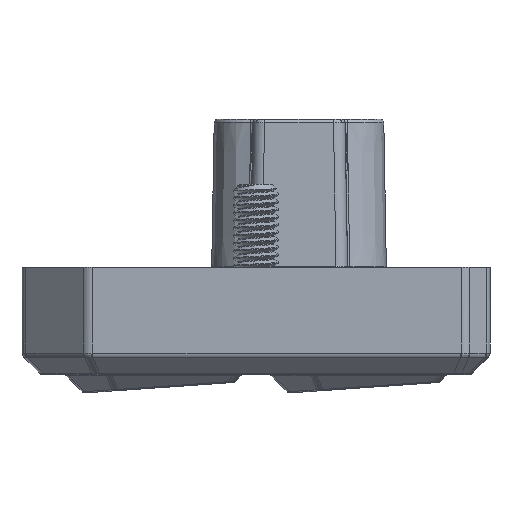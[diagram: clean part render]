
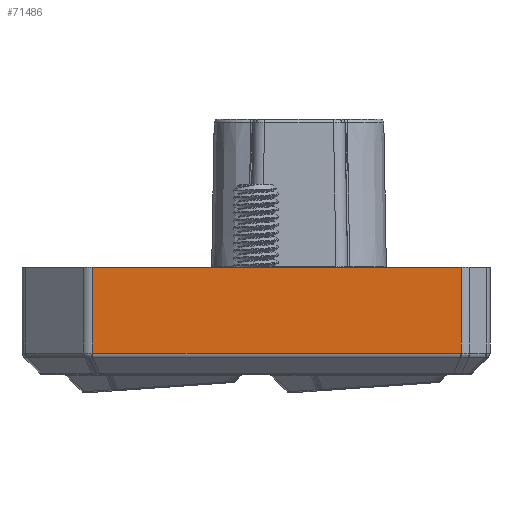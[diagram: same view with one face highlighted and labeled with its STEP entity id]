
A CAD part, front view. The second image highlights one B-rep face of the part: STEP entity #71486.
In plain terms, the highlighted planar face has unit normal (0, -1, 0).
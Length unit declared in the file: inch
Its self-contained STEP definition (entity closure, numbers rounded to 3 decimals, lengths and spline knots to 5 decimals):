
#2680 = CARTESIAN_POINT ( 'NONE',  ( 1.06765, -2.035, 0.11258 ) ) ;
#3497 = CARTESIAN_POINT ( 'NONE',  ( -0.85265, -2.035, 0.11258 ) ) ;
#3854 = DIRECTION ( 'NONE',  ( -1., 0., 0. ) ) ;
#5195 = VERTEX_POINT ( 'NONE', #9202 ) ;
#5884 = CARTESIAN_POINT ( 'NONE',  ( 1.0676, -2.035, 0.11243 ) ) ;
#7273 = CARTESIAN_POINT ( 'NONE',  ( 1.06765, -2.035, 0.11258 ) ) ;
#9202 = CARTESIAN_POINT ( 'NONE',  ( 1.06396, -2.035, 0.11243 ) ) ;
#11537 = CARTESIAN_POINT ( 'NONE',  ( -0.85018, -2.035, 0.11243 ) ) ;
#12910 = EDGE_CURVE ( 'NONE', #82514, #63931, #21594, .T. ) ;
#16807 = EDGE_CURVE ( 'NONE', #76202, #53234, #59922, .T. ) ;
#18302 = AXIS2_PLACEMENT_3D ( 'NONE', #78240, #21017, #3854 ) ;
#19796 = CARTESIAN_POINT ( 'NONE',  ( 1.06641, -2.035, 0.11248 ) ) ;
#21017 = DIRECTION ( 'NONE',  ( 0., 1., 0. ) ) ;
#21594 =( BOUNDED_CURVE ( )  B_SPLINE_CURVE ( 3, ( #24486, #69195, #11537, #58230 ),
 .UNSPECIFIED., .F., .F. ) 
 B_SPLINE_CURVE_WITH_KNOTS ( ( 4, 4 ),
 ( 5.94544, 6.00917 ),
 .UNSPECIFIED. ) 
 CURVE ( )  GEOMETRIC_REPRESENTATION_ITEM ( )  RATIONAL_B_SPLINE_CURVE ( ( 1., 1., 1., 1. ) ) 
 REPRESENTATION_ITEM ( '' )  );
#22702 = EDGE_CURVE ( 'NONE', #63816, #53234, #23260, .T. ) ;
#23260 = LINE ( 'NONE', #42052, #82574 ) ;
#24486 = CARTESIAN_POINT ( 'NONE',  ( -0.85265, -2.035, 0.11258 ) ) ;
#24638 = VECTOR ( 'NONE', #63199, 39.37008 ) ;
#26066 = CARTESIAN_POINT ( 'NONE',  ( 1.06518, -2.035, 0.11243 ) ) ;
#28120 = DIRECTION ( 'NONE',  ( 1., 0., 0. ) ) ;
#28244 = ORIENTED_EDGE ( 'NONE', *, *, #81262, .T. ) ;
#29830 = EDGE_CURVE ( 'NONE', #5195, #63816, #44769, .T. ) ;
#30980 = LINE ( 'NONE', #81999, #24638 ) ;
#32786 = ORIENTED_EDGE ( 'NONE', *, *, #12910, .T. ) ;
#38849 = DIRECTION ( 'NONE',  ( 1., 0., 0. ) ) ;
#39227 = VECTOR ( 'NONE', #28120, 39.37008 ) ;
#39355 = ORIENTED_EDGE ( 'NONE', *, *, #50807, .T. ) ;
#39375 = ORIENTED_EDGE ( 'NONE', *, *, #22702, .T. ) ;
#39400 = FACE_OUTER_BOUND ( 'NONE', #57907, .T. ) ;
#42052 = CARTESIAN_POINT ( 'NONE',  ( 1.06765, -2.035, 0.56 ) ) ;
#44769 =( BOUNDED_CURVE ( )  B_SPLINE_CURVE ( 3, ( #58678, #26066, #19796, #7273 ),
 .UNSPECIFIED., .F., .F. ) 
 B_SPLINE_CURVE_WITH_KNOTS ( ( 4, 4 ),
 ( 3.41561, 3.47934 ),
 .UNSPECIFIED. ) 
 CURVE ( )  GEOMETRIC_REPRESENTATION_ITEM ( )  RATIONAL_B_SPLINE_CURVE ( ( 1., 1., 1., 1. ) ) 
 REPRESENTATION_ITEM ( '' )  );
#50807 = EDGE_CURVE ( 'NONE', #63931, #5195, #80346, .T. ) ;
#53234 = VERTEX_POINT ( 'NONE', #61399 ) ;
#54478 = CARTESIAN_POINT ( 'NONE',  ( 1.2175, -2.035, 0.56 ) ) ;
#54676 = VECTOR ( 'NONE', #38849, 39.37008 ) ;
#55432 = DIRECTION ( 'NONE',  ( 0., 0., 1. ) ) ;
#57907 = EDGE_LOOP ( 'NONE', ( #39355, #63499, #39375, #66210, #28244, #32786 ) ) ;
#58230 = CARTESIAN_POINT ( 'NONE',  ( -0.84896, -2.035, 0.11243 ) ) ;
#58678 = CARTESIAN_POINT ( 'NONE',  ( 1.06396, -2.035, 0.11243 ) ) ;
#59922 = LINE ( 'NONE', #54478, #39227 ) ;
#61399 = CARTESIAN_POINT ( 'NONE',  ( 1.06765, -2.035, 0.56 ) ) ;
#61409 = CARTESIAN_POINT ( 'NONE',  ( -0.85265, -2.035, 0.56 ) ) ;
#63199 = DIRECTION ( 'NONE',  ( 0., 0., -1. ) ) ;
#63499 = ORIENTED_EDGE ( 'NONE', *, *, #29830, .T. ) ;
#63816 = VERTEX_POINT ( 'NONE', #2680 ) ;
#63931 = VERTEX_POINT ( 'NONE', #63933 ) ;
#63933 = CARTESIAN_POINT ( 'NONE',  ( -0.84896, -2.035, 0.11243 ) ) ;
#64903 = PLANE ( 'NONE',  #18302 ) ;
#66210 = ORIENTED_EDGE ( 'NONE', *, *, #16807, .F. ) ;
#69195 = CARTESIAN_POINT ( 'NONE',  ( -0.85141, -2.035, 0.11248 ) ) ;
#71486 = ADVANCED_FACE ( 'NONE', ( #39400 ), #64903, .F. ) ;
#76202 = VERTEX_POINT ( 'NONE', #61409 ) ;
#78240 = CARTESIAN_POINT ( 'NONE',  ( 1.2175, -2.035, 0.56 ) ) ;
#80346 = LINE ( 'NONE', #5884, #54676 ) ;
#81262 = EDGE_CURVE ( 'NONE', #76202, #82514, #30980, .T. ) ;
#81999 = CARTESIAN_POINT ( 'NONE',  ( -0.85265, -2.035, 0. ) ) ;
#82514 = VERTEX_POINT ( 'NONE', #3497 ) ;
#82574 = VECTOR ( 'NONE', #55432, 39.37008 ) ;
